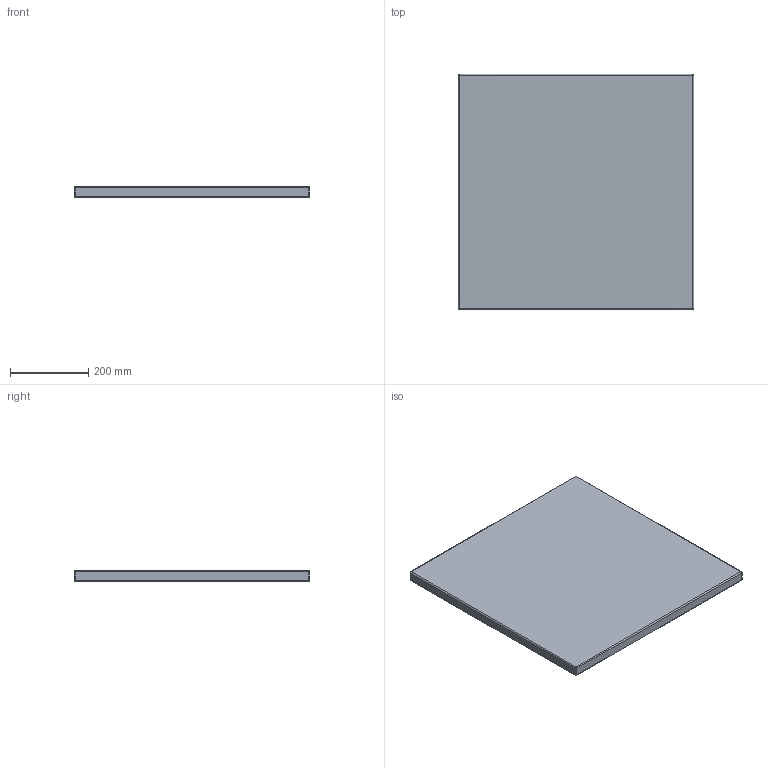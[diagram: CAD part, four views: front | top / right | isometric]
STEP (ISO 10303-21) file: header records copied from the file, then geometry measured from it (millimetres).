
FILE_DESCRIPTION(/* description */ (''),/* implementation_level */ '2;1');
FILE_NAME(/* name */ 'kinoshita_abord_gt002-600-600',/* time_stamp */ '2025-09-16T17:30:14+09:00',/* author */ (''),/* organization */ (''),/* preprocessor_version */ 'ST-DEVELOPER v16.5',/* originating_system */ '',/* authorisation */ '');
FILE_SCHEMA (('AUTOMOTIVE_DESIGN'));
Length unit declared in the file: millimetre
Products named in the file (1): Document
Bounding box: 600 x 600 x 27 mm (x, y, z)
Volume: 9710556.6 mm3; surface area: 778470.2 mm2
Topology: 1 solids, 1 shells, 26 faces, 48 edges, 24 vertices
Faces by surface type: bspline 20, plane 6
Entity records: 667 total; most frequent: CARTESIAN_POINT 354, ORIENTED_EDGE 96, EDGE_CURVE 48, ADVANCED_FACE 26, FACE_OUTER_BOUND 26, EDGE_LOOP 26, B_SPLINE_CURVE_WITH_KNOTS 24, VERTEX_POINT 24
